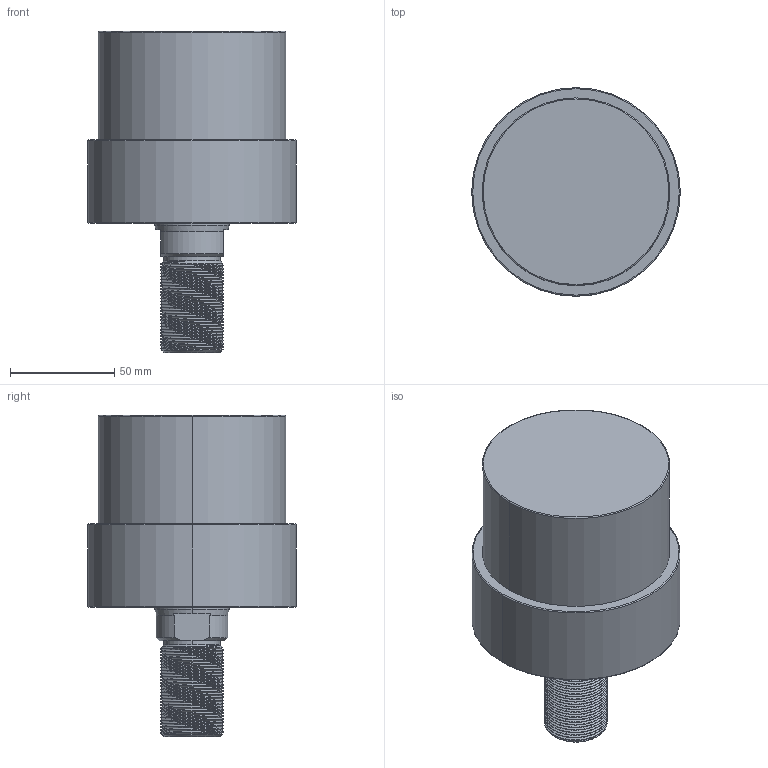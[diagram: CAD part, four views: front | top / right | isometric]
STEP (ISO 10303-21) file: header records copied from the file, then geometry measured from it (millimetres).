
FILE_DESCRIPTION (( 'STEP AP203' ), '1' );
FILE_NAME ('CLLU-090GT-030.STEP', '2020-01-13T02:35:06', ( '' ), ( '' ), 'SwSTEP 2.0', 'SolidWorks 2015', '' );
FILE_SCHEMA (( 'CONFIG_CONTROL_DESIGN' ));
Length unit declared in the file: millimetre
Products named in the file (1): CLLU-090GT-030
Bounding box: 100 x 100 x 154 mm (x, y, z)
Volume: 683627 mm3; surface area: 54457.2 mm2
Topology: 1 solids, 1 shells, 123 faces, 321 edges, 201 vertices
Faces by surface type: cylinder 78, cone 26, plane 11, torus 6, bspline 2
Entity records: 7133 total; most frequent: CARTESIAN_POINT 4398, ORIENTED_EDGE 626, DIRECTION 501, EDGE_CURVE 313, VERTEX_POINT 201, AXIS2_PLACEMENT_3D 197, EDGE_LOOP 132, FACE_OUTER_BOUND 123
